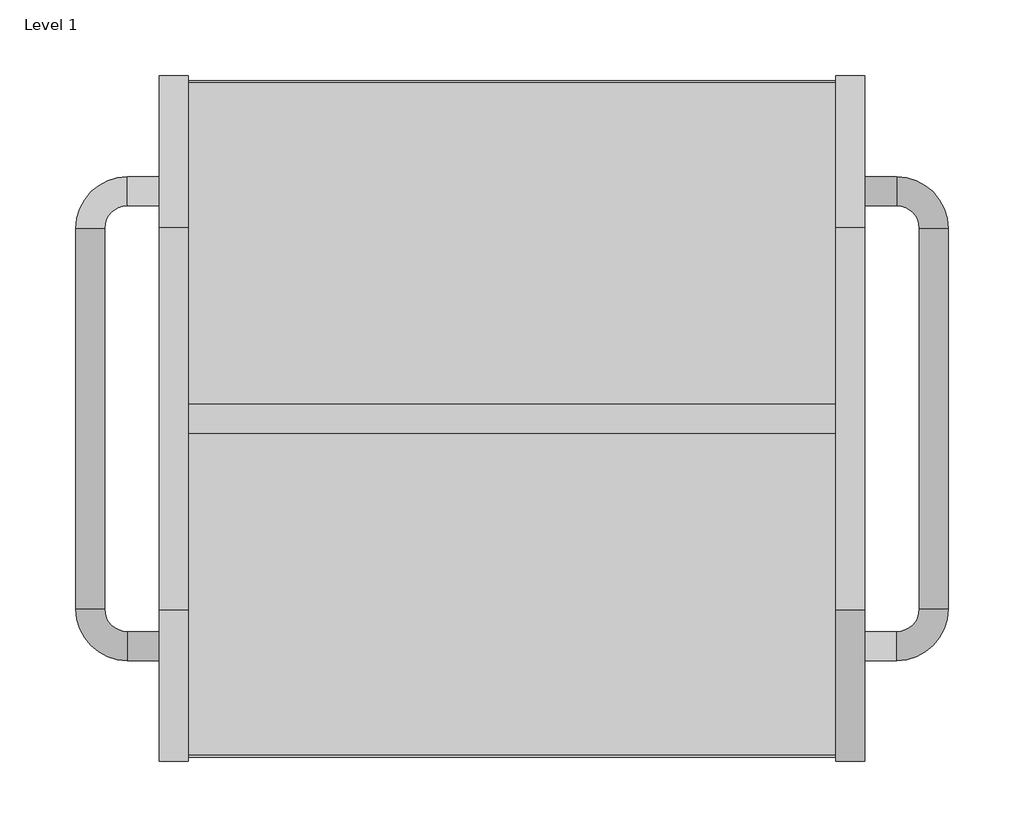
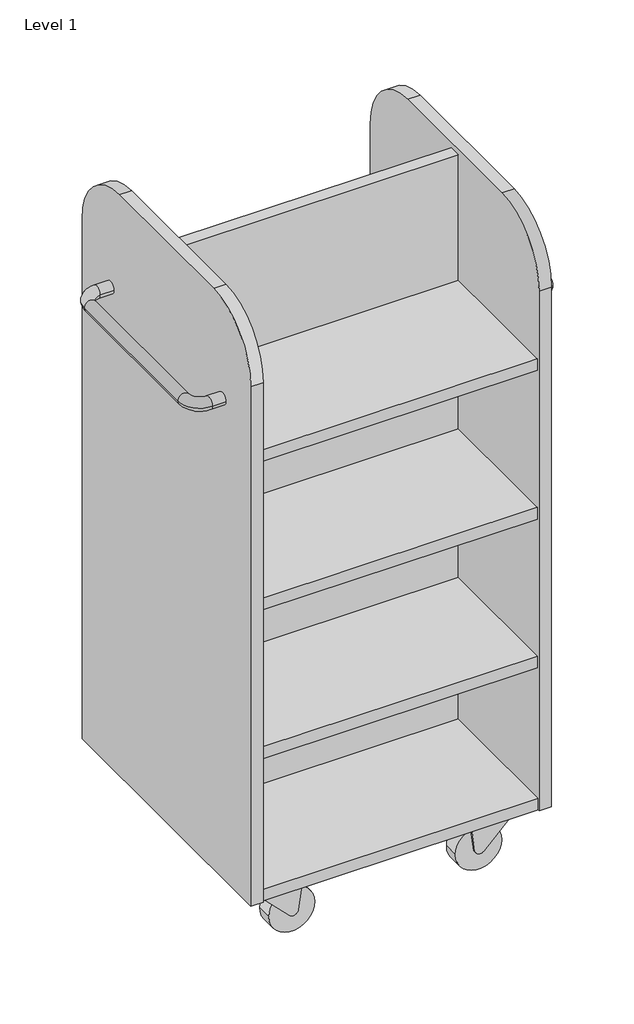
# One storey: 1 furniture element.
"""IFC4 building model written with IfcOpenShell, lengths in millimetres."""

import ifcopenshell
import ifcopenshell.guid

model = None  # the IFC model being written
_history = None  # IfcOwnerHistory: only IFC2X3 demands one
_inside = {}  # id of a spatial element -> (the spatial element, [elements in it])
_under = {}  # id of a project, library or spatial element -> (it, [spatial elements below it])
_declared = {}  # id of a project -> (the project, [libraries it declares])
_typed = {}  # id of a type object -> (the type object, [elements of that type])
_made_of = {}  # id of a material, layer set ... -> (it, [elements and type objects made of it])


def new_model(schema):
    """Start an empty IFC model of exactly this schema.

    Asked for "IFC4X3", IfcOpenShell would pick the latest addendum, in which some entities
    have other attributes; the version numbers below select the first issue.
    IFC2X3 requires an IfcOwnerHistory on every rooted entity: one is made here for all.
    """
    global model, _history
    if schema == "IFC4X3":
        model = ifcopenshell.file(schema_version=(4, 3, 0, 0))
    else:
        model = ifcopenshell.file(schema=schema)
    _inside.clear()
    _under.clear()
    _declared.clear()
    _typed.clear()
    _made_of.clear()
    _history = None
    if model.schema == "IFC2X3":
        org = make("IfcOrganization", Name="unknown")
        user = make(
            "IfcPersonAndOrganization",
            ThePerson=make("IfcPerson", FamilyName="unknown"),
            TheOrganization=org,
        )
        app = make(
            "IfcApplication",
            ApplicationDeveloper=org,
            Version="unknown",
            ApplicationFullName="unknown",
            ApplicationIdentifier="unknown",
        )
        _history = make(
            "IfcOwnerHistory",
            OwningUser=user,
            OwningApplication=app,
            ChangeAction="ADDED",
            CreationDate=0,
        )
    return model


def make(cls, **values):
    """One entity of the class cls with the attributes given. An attribute that is None is left unset."""
    return model.create_entity(
        cls, **{name: value for name, value in values.items() if value is not None}
    )


def rooted(cls, **values):
    """An entity with a GlobalId (a new one), such as an element, a storey or a relation."""
    return make(cls, GlobalId=ifcopenshell.guid.new(), OwnerHistory=_history, **values)


def si_unit(unit_type, name, prefix=None):
    """IfcSIUnit, for example si_unit("LENGTHUNIT", "METRE", prefix="MILLI")."""
    return make("IfcSIUnit", UnitType=unit_type, Prefix=prefix, Name=name)


def assignment(units):
    """IfcUnitAssignment: the units of a project."""
    return None if units is None else make("IfcUnitAssignment", Units=units)


def point(xyz):
    """IfcCartesianPoint."""
    return None if xyz is None else make("IfcCartesianPoint", Coordinates=xyz)


def direction(xyz):
    """IfcDirection."""
    return None if xyz is None else make("IfcDirection", DirectionRatios=xyz)


def frame(location, z_axis=None, x_axis=None):
    """IfcAxis2Placement3D, a coordinate frame: its origin and axes. An axis left out is left unset."""
    return make(
        "IfcAxis2Placement3D",
        Location=point(location),
        Axis=direction(z_axis),
        RefDirection=direction(x_axis),
    )


def frame_2d(location, x_axis=None):
    """IfcAxis2Placement2D, a coordinate frame in the plane: its origin and x axis."""
    return make(
        "IfcAxis2Placement2D", Location=point(location), RefDirection=direction(x_axis)
    )


def origin():
    """The frame at (0, 0, 0) with its axes left unset."""
    return frame((0.0, 0.0, 0.0))


def place(relative_to, where):
    """IfcLocalPlacement: puts the frame where relative to a parent placement (None: the world)."""
    return make(
        "IfcLocalPlacement", PlacementRelTo=relative_to, RelativePlacement=where
    )


def context(
    kind, dimensions, precision=None, world=None, true_north=None, identifier=None
):
    """IfcGeometricRepresentationContext, for example the 3D "Model" context."""
    return make(
        "IfcGeometricRepresentationContext",
        ContextIdentifier=identifier,
        ContextType=kind,
        CoordinateSpaceDimension=dimensions,
        Precision=precision,
        WorldCoordinateSystem=world,
        TrueNorth=true_north,
    )


def project(units=None, contexts=None):
    """IfcProject with its units and contexts."""
    return rooted(
        "IfcProject",
        Name="project",
        RepresentationContexts=contexts,
        UnitsInContext=assignment(units),
    )


def spatial(cls, under=None, at=None, **own):
    """A site, building, storey or space (cls), placed at a placement, below another one or the project."""
    s = rooted(cls, ObjectPlacement=at, **own)
    if under is not None:
        _under.setdefault(under.id(), (under, []))[1].append(s)
    return s


def polyline(points):
    """IfcPolyline through the points."""
    return make("IfcPolyline", Points=[point(p) for p in points])


def circle_curve(where, radius):
    """IfcCircle in the frame where."""
    return make("IfcCircle", Position=where, Radius=radius)


def ellipse_curve(where, semi_axis1, semi_axis2):
    """IfcEllipse in the frame where."""
    return make(
        "IfcEllipse", Position=where, SemiAxis1=semi_axis1, SemiAxis2=semi_axis2
    )


def trimmed(basis, trim1, trim2, sense, master):
    """IfcTrimmedCurve: the piece of a basis curve between two trims."""
    return make(
        "IfcTrimmedCurve",
        BasisCurve=basis,
        Trim1=trim1,
        Trim2=trim2,
        SenseAgreement=sense,
        MasterRepresentation=master,
    )


def segment(curve, same_sense, transition):
    """IfcCompositeCurveSegment."""
    return make(
        "IfcCompositeCurveSegment",
        Transition=transition,
        SameSense=same_sense,
        ParentCurve=curve,
    )


def composite_curve(segments, self_intersect=None):
    """IfcCompositeCurve: segments joined end to end."""
    return make("IfcCompositeCurve", Segments=segments, SelfIntersect=self_intersect)


def outline(outer, holes=None, kind="AREA"):
    """IfcArbitraryClosedProfileDef: a profile drawn as a closed curve; with holes, ...WithVoids."""
    if holes is None:
        return make("IfcArbitraryClosedProfileDef", ProfileType=kind, OuterCurve=outer)
    return make(
        "IfcArbitraryProfileDefWithVoids",
        ProfileType=kind,
        OuterCurve=outer,
        InnerCurves=holes,
    )


def extrude(swept, where, along, depth):
    """IfcExtrudedAreaSolid: the profile swept, set in the frame where, extruded along a direction by depth."""
    return make(
        "IfcExtrudedAreaSolid",
        SweptArea=swept,
        Position=where,
        ExtrudedDirection=direction(along),
        Depth=depth,
    )


def shape(context_of_items, identifier, shape_type, items):
    """IfcShapeRepresentation: the items that make up one representation, for example the "Body"."""
    return make(
        "IfcShapeRepresentation",
        ContextOfItems=context_of_items,
        RepresentationIdentifier=identifier,
        RepresentationType=shape_type,
        Items=items,
    )


def source(mapping_origin, context_of_items, identifier, shape_type, items):
    """IfcRepresentationMap: a shape defined once, which mapped items show again and again."""
    return make(
        "IfcRepresentationMap",
        MappingOrigin=mapping_origin,
        MappedRepresentation=shape(context_of_items, identifier, shape_type, items),
    )


def transform(
    local_origin,
    x_axis=None,
    y_axis=None,
    z_axis=None,
    scale=None,
    scale2=None,
    scale3=None,
    uniform=True,
):
    """IfcCartesianTransformationOperator3D, or its non-uniform kind. x_axis, y_axis, z_axis: its Axis1, 2, 3."""
    if uniform:
        return make(
            "IfcCartesianTransformationOperator3D",
            Axis1=direction(x_axis),
            Axis2=direction(y_axis),
            LocalOrigin=point(local_origin),
            Scale=scale,
            Axis3=direction(z_axis),
        )
    return make(
        "IfcCartesianTransformationOperator3DnonUniform",
        Axis1=direction(x_axis),
        Axis2=direction(y_axis),
        LocalOrigin=point(local_origin),
        Scale=scale,
        Axis3=direction(z_axis),
        Scale2=scale2,
        Scale3=scale3,
    )


def mapped(mapping_source, mapping_target):
    """IfcMappedItem: shows the shape of a source again, moved by a transform."""
    return make(
        "IfcMappedItem", MappingSource=mapping_source, MappingTarget=mapping_target
    )


def made_of(thing, what):
    """Note that an element or type object is made of a material, layer set ...; save() writes the relation."""
    if what is not None:
        _made_of.setdefault(what.id(), (what, []))[1].append(thing)
    return thing


def element(
    cls,
    number,
    at=None,
    inside=None,
    cuts=None,
    type_object=None,
    material=None,
    context=None,
    identifier="Body",
    shape_type=None,
    held_by="IfcProductDefinitionShape",
    body=None,
    shapes=None,
    **own,
):
    """One element of the class cls, such as IfcWall. Its Tag is "e" and its number.

    at: its placement. inside: the storey or other place that contains it. cuts: it is an
    opening in that element (IfcRelVoidsElement). A single representation is given by context,
    identifier, shape_type and body (its items); several are given by shapes. held_by: the class
    of the entity that holds the representations. save() writes the other relations.
    """
    e = rooted(cls, Tag="e%d" % number, ObjectPlacement=at, **own)
    if body is not None:
        shapes = [shape(context, identifier, shape_type, body)]
    if shapes is not None:
        e.Representation = make(held_by, Representations=shapes)
    if inside is not None:
        _inside.setdefault(inside.id(), (inside, []))[1].append(e)
    if cuts is not None:
        rooted(
            "IfcRelVoidsElement", RelatingBuildingElement=cuts, RelatedOpeningElement=e
        )
    if type_object is not None:
        _typed.setdefault(type_object.id(), (type_object, []))[1].append(e)
    return made_of(e, material)


def aggregate(whole, parts):
    """IfcRelAggregates: a whole, such as a stair, and the parts it consists of."""
    return rooted("IfcRelAggregates", RelatingObject=whole, RelatedObjects=parts)


def save(model, path):
    """Write the relations noted so far, then the file.

    IfcRelAggregates (storeys below a building ...), IfcRelContainedInSpatialStructure (elements
    in a storey), IfcRelDefinesByType, IfcRelAssociatesMaterial and IfcRelDeclares: one each for
    every whole, place, type object, material and project.
    """
    for whole, parts in _under.values():
        aggregate(whole, parts)
    for where, things in _inside.values():
        rooted(
            "IfcRelContainedInSpatialStructure",
            RelatedElements=things,
            RelatingStructure=where,
        )
    for kind, things in _typed.values():
        rooted("IfcRelDefinesByType", RelatedObjects=things, RelatingType=kind)
    for what, things in _made_of.values():
        rooted("IfcRelAssociatesMaterial", RelatedObjects=things, RelatingMaterial=what)
    for by, libraries in _declared.values():
        rooted("IfcRelDeclares", RelatingContext=by, RelatedDefinitions=libraries)
    model.write(path)


def plane_surface(at):
    """IfcPlane: the flat surface through the origin of the frame at, square to its z axis."""
    return make("IfcPlane", Position=at)


def cylinder_surface(at, radius):
    """IfcCylindricalSurface: all points at the distance radius from the z axis of the frame at."""
    return make("IfcCylindricalSurface", Position=at, Radius=radius)


def revolved_surface(curve, axis_point, axis_direction):
    """IfcSurfaceOfRevolution: the curve turned about the line through axis_point along axis_direction."""
    return make(
        "IfcSurfaceOfRevolution",
        SweptCurve=make("IfcArbitraryOpenProfileDef", ProfileType="CURVE", Curve=curve),
        AxisPosition=make("IfcAxis1Placement", Location=point(axis_point), Axis=direction(axis_direction)),
    )


def advanced_brep(points, edges, surfaces, faces):
    """IfcAdvancedBrep: a solid bounded by faces that lie on surfaces and meet in shared edges.

    An edge is (start, end): straight between two places in points (the first is 0);
    or (start, end, curve); or (start, end, curve, False) where it runs against its curve.
    A face is (place in surfaces, loops), or (place, loops, False) where it looks against
    its surface's normal. A loop lists edges by number (the first is 1), with a minus sign
    where the edge is run from its end to its start. The first loop is the outer one.
    """
    corners = [point(p) for p in points]
    vertices = [make("IfcVertexPoint", VertexGeometry=c) for c in corners]
    made = []
    for start, end, *more in edges:
        made.append(
            make(
                "IfcEdgeCurve",
                EdgeStart=vertices[start],
                EdgeEnd=vertices[end],
                EdgeGeometry=more[0] if more else make("IfcPolyline", Points=[corners[start], corners[end]]),
                SameSense=more[1] if len(more) > 1 else True,
            )
        )
    hull = []
    for where, loops, *sense in faces:
        bounds = []
        for j, loop in enumerate(loops):
            ring = [make("IfcOrientedEdge", EdgeElement=made[abs(k) - 1], Orientation=k > 0) for k in loop]
            bounds.append(
                make(
                    "IfcFaceOuterBound" if j == 0 else "IfcFaceBound",
                    Bound=make("IfcEdgeLoop", EdgeList=ring),
                    Orientation=True,
                )
            )
        hull.append(make("IfcAdvancedFace", Bounds=bounds, FaceSurface=surfaces[where], SameSense=sense[0] if sense else True))
    return make("IfcAdvancedBrep", Outer=make("IfcClosedShell", CfsFaces=hull))


def furniture_b9f6d223(model_context):
    return source(origin(), model_context, "Body", "SolidModel", [
        extrude(outline(composite_curve([segment(polyline([(-225.9999765, 97.0), (-225.9999765, 947.0075684)]), True, "CONTINUOUS"), segment(trimmed(circle_curve(frame_2d((-125.9999765, 947.0075684)), 100.0), [point((-225.9999765, 947.0075684))], [point((-125.9999765, 1047.0075684))], False, "CARTESIAN"), True, "CONTINUOUS"), segment(polyline([(-125.9999765, 1047.0075684), (126.0000235, 1047.0075684)]), True, "CONTINUOUS"), segment(trimmed(circle_curve(frame_2d((126.0000235, 947.0075684)), 100.0), [point((126.0000235, 1047.0075684))], [point((226.0000235, 947.0075684))], False, "CARTESIAN"), True, "CONTINUOUS"), segment(polyline([(226.0000235, 947.0075684), (226.0000235, 97.0), (-225.9999765, 97.0)]), True, "CONTINUOUS")], self_intersect=False)), frame((213.5, 0.0, 0.0), z_axis=(1.0, 0.0, 0.0), x_axis=(0.0, 1.0, 0.0)), (0.0, 0.0, 1.0), 19.0),
        advanced_brep(
        [(232.5, 140.4384335, 882.0008812), (232.5, 159.4384335, 882.0008812), (253.5383998, 159.4384335, 882.0008812), (253.5383998, 140.4384335, 882.0008812), (268.5383998, 125.4384335, 882.0008812), (287.5383998, 125.4384335, 882.0008812), (287.5383998, -125.4384335, 882.0008812), (268.5383998, -125.4384335, 882.0008812), (253.5383998, -140.4384335, 882.0008812), (253.5383998, -159.4384335, 882.0008812), (232.5, -140.4384335, 882.0008812), (232.5, -159.4384335, 882.0008812)],
        [
            (0, 1, circle_curve(frame((232.5, 149.9384335, 882.0008812), z_axis=(-1.0, 0.0, 0.0), x_axis=(0.0, 1.0, 0.0)), 9.5)),
            (1, 0, circle_curve(frame((232.5, 149.9384335, 882.0008812), z_axis=(-1.0, 0.0, 0.0), x_axis=(0.0, 1.0, 0.0)), 9.5)),
            (1, 2),
            (2, 3, circle_curve(frame((253.5383998, 149.9384335, 882.0008812), z_axis=(-1.0, 0.0, 0.0), x_axis=(0.0, 1.0, 0.0)), 9.5)),
            (3, 0),
            (3, 2, circle_curve(frame((253.5383998, 149.9384335, 882.0008812), z_axis=(-1.0, 0.0, 0.0), x_axis=(0.0, 1.0, 0.0)), 9.5)),
            (4, 3, circle_curve(frame((253.5383998, 125.4384335, 882.0008812), z_axis=(0.0, 0.0, 1.0), x_axis=(0.0, 1.0, 0.0)), 15.0)),
            (2, 5, circle_curve(frame((253.5383998, 125.4384335, 882.0008812), z_axis=(0.0, 0.0, -1.0), x_axis=(0.0, 1.0, 0.0)), 34.0)),
            (5, 4, circle_curve(frame((278.0383998, 125.4384335, 882.0008812), z_axis=(0.0, 1.0, 0.0), x_axis=(1.0, 0.0, 0.0)), 9.5)),
            (4, 5, circle_curve(frame((278.0383998, 125.4384335, 882.0008812), z_axis=(0.0, 1.0, 0.0), x_axis=(1.0, 0.0, 0.0)), 9.5)),
            (5, 6),
            (6, 7, circle_curve(frame((278.0383998, -125.4384335, 882.0008812), z_axis=(0.0, 1.0, 0.0), x_axis=(1.0, 0.0, 0.0)), 9.5)),
            (7, 4),
            (7, 6, circle_curve(frame((278.0383998, -125.4384335, 882.0008812), z_axis=(0.0, 1.0, 0.0), x_axis=(1.0, 0.0, 0.0)), 9.5)),
            (8, 7, circle_curve(frame((253.5383998, -125.4384335, 882.0008812), z_axis=(0.0, 0.0, 1.0), x_axis=(1.0, 0.0, 0.0)), 15.0)),
            (6, 9, circle_curve(frame((253.5383998, -125.4384335, 882.0008812), z_axis=(0.0, 0.0, -1.0), x_axis=(1.0, 0.0, 0.0)), 34.0)),
            (9, 8, circle_curve(frame((253.5383998, -149.9384335, 882.0008812), z_axis=(1.0, 0.0, 0.0), x_axis=(0.0, -1.0, 0.0)), 9.5)),
            (8, 9, circle_curve(frame((253.5383998, -149.9384335, 882.0008812), z_axis=(1.0, 0.0, 0.0), x_axis=(0.0, -1.0, 0.0)), 9.5)),
            (10, 11, circle_curve(frame((232.5, -149.9384335, 882.0008812), z_axis=(-1.0, 0.0, 0.0), x_axis=(0.0, -1.0, 0.0)), 9.5)),
            (11, 10, circle_curve(frame((232.5, -149.9384335, 882.0008812), z_axis=(-1.0, 0.0, 0.0), x_axis=(0.0, -1.0, 0.0)), 9.5)),
            (9, 11),
            (10, 8),
        ],
        [
            plane_surface(frame((232.5, 140.4384335, 0.0), z_axis=(-1.0, 0.0, 0.0), x_axis=(0.0, 0.0, 1.0))),
            cylinder_surface(frame((232.5, 149.9384335, 882.0008812), z_axis=(-1.0, 0.0, 0.0), x_axis=(0.0, 1.0, 0.0)), 9.5),
            revolved_surface(trimmed(ellipse_curve(frame((253.5383998, 149.9384335, 882.0008812), z_axis=(-1.0, 0.0, 0.0), x_axis=(0.0, 1.0, 0.0)), 9.5, 9.5), [point((253.5383998, 159.4384335, 882.0008812))], [point((253.5383998, 140.4384335, 882.0008812))], True, "CARTESIAN"), (253.5383998, 125.4384335, 0.0), (0.0, 0.0, -1.0)),
            revolved_surface(trimmed(ellipse_curve(frame((253.5383998, 149.9384335, 882.0008812), z_axis=(-1.0, 0.0, 0.0), x_axis=(0.0, 1.0, 0.0)), 9.5, 9.5), [point((253.5383998, 140.4384335, 882.0008812))], [point((253.5383998, 159.4384335, 882.0008812))], True, "CARTESIAN"), (253.5383998, 125.4384335, 0.0), (0.0, 0.0, -1.0)),
            cylinder_surface(frame((278.0383998, 125.4384335, 882.0008812), z_axis=(0.0, 1.0, 0.0), x_axis=(1.0, 0.0, 0.0)), 9.5),
            revolved_surface(trimmed(ellipse_curve(frame((278.0383998, -125.4384335, 882.0008812), z_axis=(0.0, 1.0, 0.0), x_axis=(1.0, 0.0, 0.0)), 9.5, 9.5), [point((287.5383998, -125.4384335, 882.0008812))], [point((268.5383998, -125.4384335, 882.0008812))], True, "CARTESIAN"), (253.5383998, -125.4384335, 0.0), (0.0, 0.0, -1.0)),
            revolved_surface(trimmed(ellipse_curve(frame((278.0383998, -125.4384335, 882.0008812), z_axis=(0.0, 1.0, 0.0), x_axis=(1.0, 0.0, 0.0)), 9.5, 9.5), [point((268.5383998, -125.4384335, 882.0008812))], [point((287.5383998, -125.4384335, 882.0008812))], True, "CARTESIAN"), (253.5383998, -125.4384335, 0.0), (0.0, 0.0, -1.0)),
            plane_surface(frame((232.5, -140.4384335, 0.0), z_axis=(-1.0, 0.0, 0.0), x_axis=(0.0, 0.0, 1.0))),
            cylinder_surface(frame((253.5383998, -149.9384335, 882.0008812), z_axis=(1.0, 0.0, 0.0), x_axis=(0.0, -1.0, 0.0)), 9.5),
        ],
        [
            (0, [[1, 2]]),
            (1, [[-2, 3, 4, 5]]),
            (1, [[-1, -5, 6, -3]]),
            (2, [[7, -4, 8, 9]]),
            (3, [[-8, -6, -7, 10]]),
            (4, [[-9, 11, 12, 13]]),
            (4, [[-10, -13, 14, -11]]),
            (5, [[15, -12, 16, 17]]),
            (6, [[-16, -14, -15, 18]]),
            (7, [[19, 20]]),
            (8, [[-17, 21, -19, 22]]),
            (8, [[-18, -22, -20, -21]]),
        ],
    ),
        advanced_brep(
        [(-232.5, 159.4384335, 882.0008812), (-232.5, 140.4384335, 882.0008812), (-253.5383998, 159.4384335, 882.0008812), (-253.5383998, 140.4384335, 882.0008812), (-268.5383998, 125.4384335, 882.0008812), (-287.5383998, 125.4384335, 882.0008812), (-287.5383998, -125.4384335, 882.0008812), (-268.5383998, -125.4384335, 882.0008812), (-253.5383998, -140.4384335, 882.0008812), (-253.5383998, -159.4384335, 882.0008812), (-232.5, -159.4384335, 882.0008812), (-232.5, -140.4384335, 882.0008812)],
        [
            (0, 1, circle_curve(frame((-232.5, 149.9384335, 882.0008812), z_axis=(1.0, 0.0, 0.0), x_axis=(0.0, -1.0, 0.0)), 9.5)),
            (1, 0, circle_curve(frame((-232.5, 149.9384335, 882.0008812), z_axis=(1.0, 0.0, 0.0), x_axis=(0.0, -1.0, 0.0)), 9.5)),
            (0, 2),
            (2, 3, circle_curve(frame((-253.5383998, 149.9384335, 882.0008812), z_axis=(1.0, 0.0, 0.0), x_axis=(0.0, -1.0, 0.0)), 9.5)),
            (3, 1),
            (3, 2, circle_curve(frame((-253.5383998, 149.9384335, 882.0008812), z_axis=(1.0, 0.0, 0.0), x_axis=(0.0, -1.0, 0.0)), 9.5)),
            (4, 3, circle_curve(frame((-253.5383998, 125.4384335, 882.0008812), z_axis=(0.0, 0.0, -1.0), x_axis=(0.0, 1.0, 0.0)), 15.0)),
            (2, 5, circle_curve(frame((-253.5383998, 125.4384335, 882.0008812), z_axis=(0.0, 0.0, 1.0), x_axis=(0.0, 1.0, 0.0)), 34.0)),
            (5, 4, circle_curve(frame((-278.0383998, 125.4384335, 882.0008812), z_axis=(0.0, 1.0, 0.0), x_axis=(1.0, 0.0, 0.0)), 9.5)),
            (4, 5, circle_curve(frame((-278.0383998, 125.4384335, 882.0008812), z_axis=(0.0, 1.0, 0.0), x_axis=(1.0, 0.0, 0.0)), 9.5)),
            (5, 6),
            (6, 7, circle_curve(frame((-278.0383998, -125.4384335, 882.0008812), z_axis=(0.0, 1.0, 0.0), x_axis=(1.0, 0.0, 0.0)), 9.5)),
            (7, 4),
            (7, 6, circle_curve(frame((-278.0383998, -125.4384335, 882.0008812), z_axis=(0.0, 1.0, 0.0), x_axis=(1.0, 0.0, 0.0)), 9.5)),
            (8, 7, circle_curve(frame((-253.5383998, -125.4384335, 882.0008812), z_axis=(0.0, 0.0, -1.0), x_axis=(-1.0, 0.0, 0.0)), 15.0)),
            (6, 9, circle_curve(frame((-253.5383998, -125.4384335, 882.0008812), z_axis=(0.0, 0.0, 1.0), x_axis=(-1.0, 0.0, 0.0)), 34.0)),
            (9, 8, circle_curve(frame((-253.5383998, -149.9384335, 882.0008812), z_axis=(-1.0, 0.0, 0.0), x_axis=(0.0, 1.0, 0.0)), 9.5)),
            (8, 9, circle_curve(frame((-253.5383998, -149.9384335, 882.0008812), z_axis=(-1.0, 0.0, 0.0), x_axis=(0.0, 1.0, 0.0)), 9.5)),
            (10, 11, circle_curve(frame((-232.5, -149.9384335, 882.0008812), z_axis=(1.0, 0.0, 0.0), x_axis=(0.0, 1.0, 0.0)), 9.5)),
            (11, 10, circle_curve(frame((-232.5, -149.9384335, 882.0008812), z_axis=(1.0, 0.0, 0.0), x_axis=(0.0, 1.0, 0.0)), 9.5)),
            (9, 10),
            (11, 8),
        ],
        [
            plane_surface(frame((-232.5, 140.4384335, 0.0), z_axis=(1.0, 0.0, 0.0), x_axis=(0.0, 0.0, 1.0))),
            cylinder_surface(frame((-232.5, 149.9384335, 882.0008812), z_axis=(1.0, 0.0, 0.0), x_axis=(0.0, -1.0, 0.0)), 9.5),
            revolved_surface(trimmed(ellipse_curve(frame((-253.5383998, 149.9384335, 882.0008812), z_axis=(1.0, 0.0, 0.0), x_axis=(0.0, -1.0, 0.0)), 9.5, 9.5), [point((-253.5383998, 159.4384335, 882.0008812))], [point((-253.5383998, 140.4384335, 882.0008812))], True, "CARTESIAN"), (-253.5383998, 125.4384335, 0.0), (0.0, 0.0, 1.0)),
            revolved_surface(trimmed(ellipse_curve(frame((-253.5383998, 149.9384335, 882.0008812), z_axis=(1.0, 0.0, 0.0), x_axis=(0.0, -1.0, 0.0)), 9.5, 9.5), [point((-253.5383998, 140.4384335, 882.0008812))], [point((-253.5383998, 159.4384335, 882.0008812))], True, "CARTESIAN"), (-253.5383998, 125.4384335, 0.0), (0.0, 0.0, 1.0)),
            cylinder_surface(frame((-278.0383998, 125.4384335, 882.0008812), z_axis=(0.0, 1.0, 0.0), x_axis=(1.0, 0.0, 0.0)), 9.5),
            revolved_surface(trimmed(ellipse_curve(frame((-278.0383998, -125.4384335, 882.0008812), z_axis=(0.0, 1.0, 0.0), x_axis=(1.0, 0.0, 0.0)), 9.5, 9.5), [point((-287.5383998, -125.4384335, 882.0008812))], [point((-268.5383998, -125.4384335, 882.0008812))], True, "CARTESIAN"), (-253.5383998, -125.4384335, 0.0), (0.0, 0.0, 1.0)),
            revolved_surface(trimmed(ellipse_curve(frame((-278.0383998, -125.4384335, 882.0008812), z_axis=(0.0, 1.0, 0.0), x_axis=(1.0, 0.0, 0.0)), 9.5, 9.5), [point((-268.5383998, -125.4384335, 882.0008812))], [point((-287.5383998, -125.4384335, 882.0008812))], True, "CARTESIAN"), (-253.5383998, -125.4384335, 0.0), (0.0, 0.0, 1.0)),
            plane_surface(frame((-232.5, -140.4384335, 0.0), z_axis=(1.0, 0.0, 0.0), x_axis=(0.0, 0.0, 1.0))),
            cylinder_surface(frame((-253.5383998, -149.9384335, 882.0008812), z_axis=(-1.0, 0.0, 0.0), x_axis=(0.0, 1.0, 0.0)), 9.5),
        ],
        [
            (0, [[1, 2]]),
            (1, [[-1, 3, 4, 5]]),
            (1, [[-2, -5, 6, -3]]),
            (2, [[7, -4, 8, 9]]),
            (3, [[-8, -6, -7, 10]]),
            (4, [[-9, 11, 12, 13]]),
            (4, [[-10, -13, 14, -11]]),
            (5, [[15, -12, 16, 17]]),
            (6, [[-16, -14, -15, 18]]),
            (7, [[19, 20]]),
            (8, [[-17, 21, -20, 22]]),
            (8, [[-18, -22, -19, -21]]),
        ],
    ),
        extrude(outline(composite_curve([segment(trimmed(circle_curve(frame_2d((179.5292285, 171.1569734)), 12.5248147), [point((192.0540432, 171.1569734))], [point((167.0044137, 171.1569734))], False, "CARTESIAN"), True, "CONTINUOUS"), segment(trimmed(circle_curve(frame_2d((179.5292285, 171.1569734)), 12.5248147), [point((167.0044137, 171.1569734))], [point((192.0540432, 171.1569734))], False, "CARTESIAN"), True, "CONTINUOUS")], self_intersect=False)), frame((0.0, 0.0, 87.7), z_axis=(0.0, 0.0, 1.0), x_axis=(1.0, 0.0, 0.0)), (0.0, 0.0, 1.0), 9.3),
        extrude(outline(composite_curve([segment(trimmed(circle_curve(frame_2d((72.665374, 116.6185255)), 2.0), [point((72.665374, 114.6185255))], [point((70.6957585, 116.2712291))], False, "CARTESIAN"), True, "CONTINUOUS"), segment(polyline([(70.6957585, 116.2712291), (68.1469989, 130.7259632)]), True, "CONTINUOUS"), segment(trimmed(circle_curve(frame_2d((66.1773834, 130.3786669)), 2.0), [point((68.1469989, 130.7259632))], [point((66.4454242, 132.360624))], True, "CARTESIAN"), True, "CONTINUOUS"), segment(polyline([(66.4454242, 132.360624), (34.4278369, 136.6906969)]), True, "CONTINUOUS"), segment(trimmed(circle_curve(frame_2d((35.5, 144.6185255)), 8.0), [point((34.4278369, 136.6906969))], [point((29.8327739, 150.2649888))], False, "CARTESIAN"), True, "CONTINUOUS"), segment(polyline([(29.8327739, 150.2649888), (80.4985188, 201.1170388), (88.2, 201.1170388), (88.2, 114.6185255), (72.665374, 114.6185255)]), True, "CONTINUOUS")], self_intersect=False)), frame((0.0, 155.1101244, 0.0), z_axis=(0.0, 1.0, 0.0), x_axis=(0.0, 0.0, 1.0)), (0.0, 0.0, 1.0), 32.0),
        extrude(outline(composite_curve([segment(trimmed(circle_curve(frame_2d((35.6872146, 144.5149539)), 35.6947525), [point((35.6872146, 108.8202015))], [point((35.6872146, 180.2097064))], False, "CARTESIAN"), True, "CONTINUOUS"), segment(trimmed(circle_curve(frame_2d((35.6872146, 144.5149539)), 35.6947525), [point((35.6872146, 180.2097064))], [point((35.6872146, 108.8202015))], False, "CARTESIAN"), True, "CONTINUOUS")], self_intersect=False)), frame((0.0, 159.1101244, 0.0), z_axis=(0.0, 1.0, 0.0), x_axis=(0.0, 0.0, 1.0)), (0.0, 0.0, 1.0), 24.0),
        extrude(outline(composite_curve([segment(trimmed(circle_curve(frame_2d((179.5292285, -171.1569734)), 12.5248147), [point((192.0540432, -171.1569734))], [point((167.0044137, -171.1569734))], False, "CARTESIAN"), True, "CONTINUOUS"), segment(trimmed(circle_curve(frame_2d((179.5292285, -171.1569734)), 12.5248147), [point((167.0044137, -171.1569734))], [point((192.0540432, -171.1569734))], False, "CARTESIAN"), True, "CONTINUOUS")], self_intersect=False)), frame((0.0, 0.0, 87.7), z_axis=(0.0, 0.0, 1.0), x_axis=(1.0, 0.0, 0.0)), (0.0, 0.0, 1.0), 9.3),
        extrude(outline(composite_curve([segment(trimmed(circle_curve(frame_2d((72.665374, 116.6185255)), 2.0), [point((72.665374, 114.6185255))], [point((70.6957585, 116.2712291))], False, "CARTESIAN"), True, "CONTINUOUS"), segment(polyline([(70.6957585, 116.2712291), (68.1469989, 130.7259632)]), True, "CONTINUOUS"), segment(trimmed(circle_curve(frame_2d((66.1773834, 130.3786669)), 2.0), [point((68.1469989, 130.7259632))], [point((66.4454242, 132.360624))], True, "CARTESIAN"), True, "CONTINUOUS"), segment(polyline([(66.4454242, 132.360624), (34.4278369, 136.6906969)]), True, "CONTINUOUS"), segment(trimmed(circle_curve(frame_2d((35.5, 144.6185255)), 8.0), [point((34.4278369, 136.6906969))], [point((29.8327739, 150.2649888))], False, "CARTESIAN"), True, "CONTINUOUS"), segment(polyline([(29.8327739, 150.2649888), (80.4985188, 201.1170388), (88.2, 201.1170388), (88.2, 114.6185255), (72.665374, 114.6185255)]), True, "CONTINUOUS")], self_intersect=False)), frame((0.0, -187.1101244, 0.0), z_axis=(0.0, 1.0, 0.0), x_axis=(0.0, 0.0, 1.0)), (0.0, 0.0, 1.0), 32.0),
        extrude(outline(composite_curve([segment(trimmed(circle_curve(frame_2d((35.6872146, 144.5149539)), 35.6947525), [point((35.6872146, 108.8202015))], [point((35.6872146, 180.2097064))], False, "CARTESIAN"), True, "CONTINUOUS"), segment(trimmed(circle_curve(frame_2d((35.6872146, 144.5149539)), 35.6947525), [point((35.6872146, 180.2097064))], [point((35.6872146, 108.8202015))], False, "CARTESIAN"), True, "CONTINUOUS")], self_intersect=False)), frame((0.0, -183.1101244, 0.0), z_axis=(0.0, 1.0, 0.0), x_axis=(0.0, 0.0, 1.0)), (0.0, 0.0, 1.0), 24.0),
        extrude(outline(composite_curve([segment(trimmed(circle_curve(frame_2d((-179.5292285, -171.1569734)), 12.5248147), [point((-192.0540432, -171.1569734))], [point((-167.0044137, -171.1569734))], False, "CARTESIAN"), True, "CONTINUOUS"), segment(trimmed(circle_curve(frame_2d((-179.5292285, -171.1569734)), 12.5248147), [point((-167.0044137, -171.1569734))], [point((-192.0540432, -171.1569734))], False, "CARTESIAN"), True, "CONTINUOUS")], self_intersect=False)), frame((0.0, 0.0, 87.7), z_axis=(0.0, 0.0, 1.0), x_axis=(1.0, 0.0, 0.0)), (0.0, 0.0, 1.0), 9.3),
        extrude(outline(composite_curve([segment(polyline([(72.665374, -114.6185255), (88.2, -114.6185255), (88.2, -201.1170388), (80.4985188, -201.1170388), (29.8327739, -150.2649888)]), True, "CONTINUOUS"), segment(trimmed(circle_curve(frame_2d((35.5, -144.6185255)), 8.0), [point((29.8327739, -150.2649888))], [point((34.4278369, -136.6906969))], False, "CARTESIAN"), True, "CONTINUOUS"), segment(polyline([(34.4278369, -136.6906969), (66.4454242, -132.360624)]), True, "CONTINUOUS"), segment(trimmed(circle_curve(frame_2d((66.1773834, -130.3786669)), 2.0), [point((66.4454242, -132.360624))], [point((68.1469989, -130.7259632))], True, "CARTESIAN"), True, "CONTINUOUS"), segment(polyline([(68.1469989, -130.7259632), (70.6957585, -116.2712291)]), True, "CONTINUOUS"), segment(trimmed(circle_curve(frame_2d((72.665374, -116.6185255)), 2.0), [point((70.6957585, -116.2712291))], [point((72.665374, -114.6185255))], False, "CARTESIAN"), True, "CONTINUOUS")], self_intersect=False)), frame((0.0, -187.1101244, 0.0), z_axis=(0.0, 1.0, 0.0), x_axis=(0.0, 0.0, 1.0)), (0.0, 0.0, 1.0), 32.0),
        extrude(outline(composite_curve([segment(trimmed(circle_curve(frame_2d((35.6872146, -144.5149539)), 35.6947525), [point((35.6872146, -108.8202015))], [point((35.6872146, -180.2097064))], False, "CARTESIAN"), True, "CONTINUOUS"), segment(trimmed(circle_curve(frame_2d((35.6872146, -144.5149539)), 35.6947525), [point((35.6872146, -180.2097064))], [point((35.6872146, -108.8202015))], False, "CARTESIAN"), True, "CONTINUOUS")], self_intersect=False)), frame((0.0, -183.1101244, 0.0), z_axis=(0.0, 1.0, 0.0), x_axis=(0.0, 0.0, 1.0)), (0.0, 0.0, 1.0), 24.0),
        extrude(outline(composite_curve([segment(trimmed(circle_curve(frame_2d((-179.5292285, 171.1569734)), 12.5248147), [point((-192.0540432, 171.1569734))], [point((-167.0044137, 171.1569734))], False, "CARTESIAN"), True, "CONTINUOUS"), segment(trimmed(circle_curve(frame_2d((-179.5292285, 171.1569734)), 12.5248147), [point((-167.0044137, 171.1569734))], [point((-192.0540432, 171.1569734))], False, "CARTESIAN"), True, "CONTINUOUS")], self_intersect=False)), frame((0.0, 0.0, 87.7), z_axis=(0.0, 0.0, 1.0), x_axis=(1.0, 0.0, 0.0)), (0.0, 0.0, 1.0), 9.3),
        extrude(outline(composite_curve([segment(polyline([(72.665374, -114.6185255), (88.2, -114.6185255), (88.2, -201.1170388), (80.4985188, -201.1170388), (29.8327739, -150.2649888)]), True, "CONTINUOUS"), segment(trimmed(circle_curve(frame_2d((35.5, -144.6185255)), 8.0), [point((29.8327739, -150.2649888))], [point((34.4278369, -136.6906969))], False, "CARTESIAN"), True, "CONTINUOUS"), segment(polyline([(34.4278369, -136.6906969), (66.4454242, -132.360624)]), True, "CONTINUOUS"), segment(trimmed(circle_curve(frame_2d((66.1773834, -130.3786669)), 2.0), [point((66.4454242, -132.360624))], [point((68.1469989, -130.7259632))], True, "CARTESIAN"), True, "CONTINUOUS"), segment(polyline([(68.1469989, -130.7259632), (70.6957585, -116.2712291)]), True, "CONTINUOUS"), segment(trimmed(circle_curve(frame_2d((72.665374, -116.6185255)), 2.0), [point((70.6957585, -116.2712291))], [point((72.665374, -114.6185255))], False, "CARTESIAN"), True, "CONTINUOUS")], self_intersect=False)), frame((0.0, 155.1101244, 0.0), z_axis=(0.0, 1.0, 0.0), x_axis=(0.0, 0.0, 1.0)), (0.0, 0.0, 1.0), 32.0),
        extrude(outline(composite_curve([segment(trimmed(circle_curve(frame_2d((35.6872146, -144.5149539)), 35.6947525), [point((35.6872146, -108.8202015))], [point((35.6872146, -180.2097064))], False, "CARTESIAN"), True, "CONTINUOUS"), segment(trimmed(circle_curve(frame_2d((35.6872146, -144.5149539)), 35.6947525), [point((35.6872146, -180.2097064))], [point((35.6872146, -108.8202015))], False, "CARTESIAN"), True, "CONTINUOUS")], self_intersect=False)), frame((0.0, 159.1101244, 0.0), z_axis=(0.0, 1.0, 0.0), x_axis=(0.0, 0.0, 1.0)), (0.0, 0.0, 1.0), 24.0),
        advanced_brep(
        [(-213.5, 226.0000235, 97.0), (-213.5, 226.0000235, 947.0075684), (-213.5, 126.0000235, 1047.0075684), (-213.5, -125.9999765, 1047.0075684), (-213.5, -225.9999765, 947.0075684), (-213.5, -225.9999765, 97.0), (-213.5, -222.9999765, 97.0), (-213.5, -222.9999765, 116.0075684), (-213.5, -9.5000235, 116.0075684), (-213.5, -9.5000235, 328.5075684), (-213.5, -221.5000235, 328.5075684), (-213.5, -221.5000235, 347.5075684), (-213.5, -9.5000235, 347.5075684), (-213.5, -9.5000235, 571.5075684), (-213.5, -221.5000235, 571.5075684), (-213.5, -221.5000235, 590.5075684), (-213.5, -9.5000235, 590.5075684), (-213.5, -9.5000235, 814.5075684), (-213.5, -221.5000235, 814.5075684), (-213.5, -221.5000235, 833.5075684), (-213.5, -9.4999765, 833.5075684), (-213.5, -9.4999765, 1039.0075684), (-213.5, 9.5000235, 1039.0075684), (-213.5, 9.5000235, 833.5075684), (-213.5, 221.5000235, 833.5075684), (-213.5, 221.5000235, 814.5075684), (-213.5, 9.5000235, 814.5075684), (-213.5, 9.5000235, 590.5075684), (-213.5, 221.5000235, 590.5075684), (-213.5, 221.5000235, 571.5075684), (-213.5, 9.5000235, 571.5075684), (-213.5, 9.5000235, 347.5075684), (-213.5, 221.5000235, 347.5075684), (-213.5, 221.5000235, 328.5075684), (-213.5, 9.5000235, 328.5075684), (-213.5, 9.5000235, 116.0075684), (-213.5, 223.0000235, 116.0075684), (-213.5, 223.0000235, 97.0), (-232.5, -225.9999765, 97.0), (-232.5, -225.9999765, 947.0075684), (-232.5, -125.9999765, 1047.0075684), (-232.5, 126.0000235, 1047.0075684), (-232.5, 226.0000235, 947.0075684), (-232.5, 226.0000235, 97.0), (213.5, 223.0000235, 97.0), (213.5, -222.9999765, 97.0), (213.5, 9.5000235, 1039.0075684), (213.5, -9.4999765, 1039.0075684), (213.5, -9.4999765, 833.5075684), (213.5, -221.5000235, 833.5075684), (213.5, -221.5000235, 814.5075684), (213.5, -9.5000235, 814.5075684), (213.5, -9.5000235, 590.5075684), (213.5, -221.5000235, 590.5075684), (213.5, -221.5000235, 571.5075684), (213.5, -9.5000235, 571.5075684), (213.5, -9.5000235, 347.5075684), (213.5, -221.5000235, 347.5075684), (213.5, -221.5000235, 328.5075684), (213.5, -9.5000235, 328.5075684), (213.5, -9.5000235, 116.0075684), (213.5, -222.9999765, 116.0075684), (213.5, 223.0000235, 116.0075684), (213.5, 9.5000235, 116.0075684), (213.5, 9.5000235, 328.5075684), (213.5, 221.5000235, 328.5075684), (213.5, 221.5000235, 347.5075684), (213.5, 9.5000235, 347.5075684), (213.5, 9.5000235, 571.5075684), (213.5, 221.5000235, 571.5075684), (213.5, 221.5000235, 590.5075684), (213.5, 9.5000235, 590.5075684), (213.5, 9.5000235, 814.5075684), (213.5, 221.5000235, 814.5075684), (213.5, 221.5000235, 833.5075684), (213.5, 9.5000235, 833.5075684)],
        [
            (0, 1),
            (1, 2, circle_curve(frame((-213.5, 126.0000235, 947.0075684), z_axis=(1.0, 0.0, 0.0), x_axis=(0.0, 1.0, 0.0)), 100.0)),
            (2, 3),
            (3, 4, circle_curve(frame((-213.5, -125.9999765, 947.0075684), z_axis=(1.0, 0.0, 0.0), x_axis=(0.0, 1.0, 0.0)), 100.0)),
            (4, 5),
            (5, 6),
            (6, 7),
            (7, 8),
            (8, 9),
            (9, 10),
            (10, 11),
            (11, 12),
            (12, 13),
            (13, 14),
            (14, 15),
            (15, 16),
            (16, 17),
            (17, 18),
            (18, 19),
            (19, 20),
            (20, 21),
            (21, 22),
            (22, 23),
            (23, 24),
            (24, 25),
            (25, 26),
            (26, 27),
            (27, 28),
            (28, 29),
            (29, 30),
            (30, 31),
            (31, 32),
            (32, 33),
            (33, 34),
            (34, 35),
            (35, 36),
            (36, 37),
            (37, 0),
            (38, 39),
            (39, 40, circle_curve(frame((-232.5, -125.9999765, 947.0075684), z_axis=(-1.0, 0.0, 0.0), x_axis=(0.0, 1.0, 0.0)), 100.0)),
            (40, 41),
            (41, 42, circle_curve(frame((-232.5, 126.0000235, 947.0075684), z_axis=(-1.0, 0.0, 0.0), x_axis=(0.0, 1.0, 0.0)), 100.0)),
            (42, 43),
            (43, 38),
            (43, 0),
            (37, 44),
            (44, 45),
            (45, 6),
            (5, 38),
            (42, 1),
            (2, 41),
            (40, 3),
            (4, 39),
            (46, 47),
            (47, 48),
            (48, 49),
            (49, 50),
            (50, 51),
            (51, 52),
            (52, 53),
            (53, 54),
            (54, 55),
            (55, 56),
            (56, 57),
            (57, 58),
            (58, 59),
            (59, 60),
            (60, 61),
            (61, 45),
            (44, 62),
            (62, 63),
            (63, 64),
            (64, 65),
            (65, 66),
            (66, 67),
            (67, 68),
            (68, 69),
            (69, 70),
            (70, 71),
            (71, 72),
            (72, 73),
            (73, 74),
            (74, 75),
            (75, 46),
            (46, 22),
            (21, 47),
            (20, 48),
            (19, 49),
            (18, 50),
            (17, 51),
            (16, 52),
            (15, 53),
            (14, 54),
            (13, 55),
            (12, 56),
            (11, 57),
            (10, 58),
            (9, 59),
            (8, 60),
            (7, 61),
            (36, 62),
            (35, 63),
            (34, 64),
            (33, 65),
            (32, 66),
            (31, 67),
            (30, 68),
            (29, 69),
            (28, 70),
            (27, 71),
            (26, 72),
            (25, 73),
            (24, 74),
            (23, 75),
        ],
        [
            plane_surface(frame((-213.5, 201.5, 97.0), z_axis=(1.0, 0.0, 0.0), x_axis=(0.0, 1.0, 0.0))),
            plane_surface(frame((-232.5, 201.5, 97.0), z_axis=(-1.0, 0.0, 0.0), x_axis=(0.0, -1.0, 0.0))),
            plane_surface(frame((-213.5, -225.9999765, 97.0), z_axis=(0.0, 0.0, -1.0), x_axis=(-1.0, 0.0, 0.0))),
            plane_surface(frame((-213.5, 226.0000235, 97.0), z_axis=(0.0, 1.0, 0.0), x_axis=(-1.0, 0.0, 0.0))),
            plane_surface(frame((-213.5, 126.0000235, 1047.0075684), z_axis=(0.0, 0.0, 1.0), x_axis=(-1.0, 0.0, 0.0))),
            plane_surface(frame((-213.5, -225.9999765, 947.0075684), z_axis=(0.0, -1.0, 0.0), x_axis=(-1.0, 0.0, 0.0))),
            plane_surface(frame((213.5, 9.5000235, 1039.0075684), z_axis=(1.0, 0.0, 0.0), x_axis=(0.0, -1.0, 0.0))),
            cylinder_surface(frame((-232.5, 126.0000235, 947.0075684), z_axis=(1.0, 0.0, 0.0), x_axis=(0.0, 1.0, 0.0)), 100.0),
            cylinder_surface(frame((-232.5, -125.9999765, 947.0075684), z_axis=(1.0, 0.0, 0.0), x_axis=(0.0, 1.0, 0.0)), 100.0),
            plane_surface(frame((213.5, 9.5000235, 1039.0075684), z_axis=(0.0, 0.0, 1.0), x_axis=(-1.0, 0.0, 0.0))),
            plane_surface(frame((213.5, -9.4999765, 1039.0075684), z_axis=(0.0, -1.0, 0.0), x_axis=(-1.0, 0.0, 0.0))),
            plane_surface(frame((213.5, -9.4999765, 833.5075684), z_axis=(0.0, 0.0, 1.0), x_axis=(-1.0, 0.0, 0.0))),
            plane_surface(frame((213.5, -221.5000235, 833.5075684), z_axis=(0.0, -1.0, 0.0), x_axis=(-1.0, 0.0, 0.0))),
            plane_surface(frame((213.5, -221.5000235, 814.5075684), z_axis=(0.0, 0.0, -1.0), x_axis=(-1.0, 0.0, 0.0))),
            plane_surface(frame((213.5, -9.5000235, 814.5075684), z_axis=(0.0, -1.0, 0.0), x_axis=(-1.0, 0.0, 0.0))),
            plane_surface(frame((213.5, -9.5000235, 590.5075684), z_axis=(0.0, 0.0, 1.0), x_axis=(-1.0, 0.0, 0.0))),
            plane_surface(frame((213.5, -221.5000235, 590.5075684), z_axis=(0.0, -1.0, 0.0), x_axis=(-1.0, 0.0, 0.0))),
            plane_surface(frame((213.5, -221.5000235, 571.5075684), z_axis=(0.0, 0.0, -1.0), x_axis=(-1.0, 0.0, 0.0))),
            plane_surface(frame((213.5, -9.5000235, 571.5075684), z_axis=(0.0, -1.0, 0.0), x_axis=(-1.0, 0.0, 0.0))),
            plane_surface(frame((213.5, -9.5000235, 347.5075684), z_axis=(0.0, 0.0, 1.0), x_axis=(-1.0, 0.0, 0.0))),
            plane_surface(frame((213.5, -221.5000235, 347.5075684), z_axis=(0.0, -1.0, 0.0), x_axis=(-1.0, 0.0, 0.0))),
            plane_surface(frame((213.5, -221.5000235, 328.5075684), z_axis=(0.0, 0.0, -1.0), x_axis=(-1.0, 0.0, 0.0))),
            plane_surface(frame((213.5, -9.5000235, 328.5075684), z_axis=(0.0, -1.0, 0.0), x_axis=(-1.0, 0.0, 0.0))),
            plane_surface(frame((213.5, -9.5000235, 116.0075684), z_axis=(0.0, 0.0, 1.0), x_axis=(-1.0, 0.0, 0.0))),
            plane_surface(frame((213.5, -222.9999765, 116.0075684), z_axis=(0.0, -1.0, 0.0), x_axis=(-1.0, 0.0, 0.0))),
            plane_surface(frame((213.5, 223.0000235, 97.0075684), z_axis=(0.0, 1.0, 0.0), x_axis=(-1.0, 0.0, 0.0))),
            plane_surface(frame((213.5, 223.0000235, 116.0075684), z_axis=(0.0, 0.0, 1.0), x_axis=(-1.0, 0.0, 0.0))),
            plane_surface(frame((213.5, 9.5000235, 116.0075684), z_axis=(0.0, 1.0, 0.0), x_axis=(-1.0, 0.0, 0.0))),
            plane_surface(frame((213.5, 9.5000235, 328.5075684), z_axis=(0.0, 0.0, -1.0), x_axis=(-1.0, 0.0, 0.0))),
            plane_surface(frame((213.5, 221.5000235, 328.5075684), z_axis=(0.0, 1.0, 0.0), x_axis=(-1.0, 0.0, 0.0))),
            plane_surface(frame((213.5, 221.5000235, 347.5075684), z_axis=(0.0, 0.0, 1.0), x_axis=(-1.0, 0.0, 0.0))),
            plane_surface(frame((213.5, 9.5000235, 347.5075684), z_axis=(0.0, 1.0, 0.0), x_axis=(-1.0, 0.0, 0.0))),
            plane_surface(frame((213.5, 9.5000235, 571.5075684), z_axis=(0.0, 0.0, -1.0), x_axis=(-1.0, 0.0, 0.0))),
            plane_surface(frame((213.5, 221.5000235, 571.5075684), z_axis=(0.0, 1.0, 0.0), x_axis=(-1.0, 0.0, 0.0))),
            plane_surface(frame((213.5, 221.5000235, 590.5075684), z_axis=(0.0, 0.0, 1.0), x_axis=(-1.0, 0.0, 0.0))),
            plane_surface(frame((213.5, 9.5000235, 590.5075684), z_axis=(0.0, 1.0, 0.0), x_axis=(-1.0, 0.0, 0.0))),
            plane_surface(frame((213.5, 9.5000235, 814.5075684), z_axis=(0.0, 0.0, -1.0), x_axis=(-1.0, 0.0, 0.0))),
            plane_surface(frame((213.5, 221.5000235, 814.5075684), z_axis=(0.0, 1.0, 0.0), x_axis=(-1.0, 0.0, 0.0))),
            plane_surface(frame((213.5, 221.5000235, 833.5075684), z_axis=(0.0, 0.0, 1.0), x_axis=(-1.0, 0.0, 0.0))),
            plane_surface(frame((213.5, 9.5000235, 833.5075684), z_axis=(0.0, 1.0, 0.0), x_axis=(-1.0, 0.0, 0.0))),
        ],
        [
            (0, [[1, 2, 3, 4, 5, 6, 7, 8, 9, 10, 11, 12, 13, 14, 15, 16, 17, 18, 19, 20, 21, 22, 23, 24, 25, 26, 27, 28, 29, 30, 31, 32, 33, 34, 35, 36, 37, 38]]),
            (1, [[39, 40, 41, 42, 43, 44]]),
            (2, [[-44, 45, -38, 46, 47, 48, -6, 49]]),
            (3, [[-1, -45, -43, 50]]),
            (4, [[-3, 51, -41, 52]]),
            (5, [[-5, 53, -39, -49]]),
            (6, [[54, 55, 56, 57, 58, 59, 60, 61, 62, 63, 64, 65, 66, 67, 68, 69, -47, 70, 71, 72, 73, 74, 75, 76, 77, 78, 79, 80, 81, 82, 83, 84]]),
            (7, [[-2, -50, -42, -51]]),
            (8, [[-4, -52, -40, -53]]),
            (9, [[-54, 85, -22, 86]]),
            (10, [[-55, -86, -21, 87]]),
            (11, [[-56, -87, -20, 88]]),
            (12, [[-57, -88, -19, 89]]),
            (13, [[-58, -89, -18, 90]]),
            (14, [[-59, -90, -17, 91]]),
            (15, [[-60, -91, -16, 92]]),
            (16, [[-61, -92, -15, 93]]),
            (17, [[-62, -93, -14, 94]]),
            (18, [[-63, -94, -13, 95]]),
            (19, [[-64, -95, -12, 96]]),
            (20, [[-65, -96, -11, 97]]),
            (21, [[-66, -97, -10, 98]]),
            (22, [[-67, -98, -9, 99]]),
            (23, [[-68, -99, -8, 100]]),
            (24, [[-69, -100, -7, -48]]),
            (25, [[-70, -46, -37, 101]]),
            (26, [[-71, -101, -36, 102]]),
            (27, [[-72, -102, -35, 103]]),
            (28, [[-73, -103, -34, 104]]),
            (29, [[-74, -104, -33, 105]]),
            (30, [[-75, -105, -32, 106]]),
            (31, [[-76, -106, -31, 107]]),
            (32, [[-77, -107, -30, 108]]),
            (33, [[-78, -108, -29, 109]]),
            (34, [[-79, -109, -28, 110]]),
            (35, [[-80, -110, -27, 111]]),
            (36, [[-81, -111, -26, 112]]),
            (37, [[-82, -112, -25, 113]]),
            (38, [[-83, -113, -24, 114]]),
            (39, [[-84, -114, -23, -85]]),
        ],
    ),
    ])


model = new_model("IFC4")

# Units and contexts
model_context = context("Model", 3, world=origin())
ifc_project = project(units=[si_unit("LENGTHUNIT", "METRE", prefix="MILLI")], contexts=[model_context])

# Site, building, storey
site = spatial("IfcSite", under=ifc_project)
building = spatial("IfcBuilding", under=site)
storey = spatial("IfcBuildingStorey", under=building, Name="Level 1", Elevation=0.0)

# Furniture
placement = place(None, origin())
furniture_shape = furniture_b9f6d223(model_context)
element("IfcFurniture", 1, ObjectType="BK Library - Rondus - Book Trolley : BK Library - Rondus - Book Trolley", at=placement, inside=storey, context=model_context, shape_type="MappedRepresentation", body=[
    mapped(furniture_shape, transform((-2709.7402553, 2197.9079229, -348.6569781), x_axis=(1.0, 0.0, 0.0), y_axis=(0.0, 1.0, 0.0), z_axis=(0.0, 0.0, 1.0))),
])

save(model, "model.ifc")
